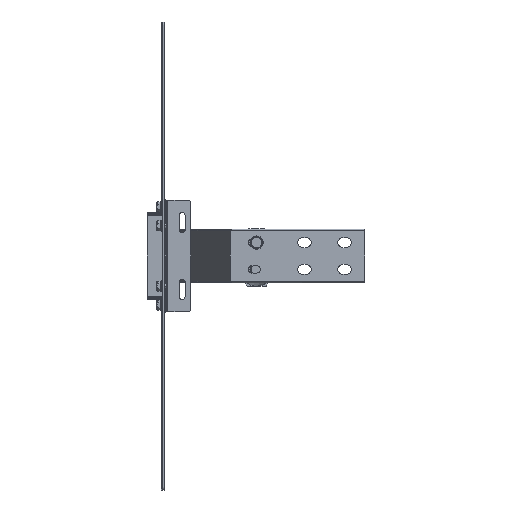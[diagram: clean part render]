
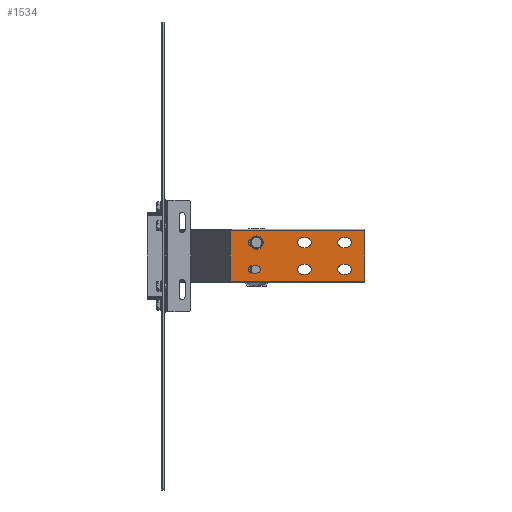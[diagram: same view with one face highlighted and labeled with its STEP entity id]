
A CAD part, front view. The second image highlights one B-rep face of the part: STEP entity #1534.
In plain terms, the highlighted planar face has unit normal (0, -1, 0).
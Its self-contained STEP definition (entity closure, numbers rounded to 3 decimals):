
#1290=AXIS2_PLACEMENT_3D('Circle Axis2P3D',#1288,#1289,$) ;
#1310=AXIS2_PLACEMENT_3D('Plane Axis2P3D',#1307,#1308,#1309) ;
#1348=AXIS2_PLACEMENT_3D('Circle Axis2P3D',#1346,#1347,$) ;
#1366=AXIS2_PLACEMENT_3D('Circle Axis2P3D',#1364,#1365,$) ;
#1382=AXIS2_PLACEMENT_3D('Circle Axis2P3D',#1380,#1381,$) ;
#1400=AXIS2_PLACEMENT_3D('Circle Axis2P3D',#1398,#1399,$) ;
#1416=AXIS2_PLACEMENT_3D('Circle Axis2P3D',#1414,#1415,$) ;
#1443=AXIS2_PLACEMENT_3D('Circle Axis2P3D',#1441,#1442,$) ;
#1457=AXIS2_PLACEMENT_3D('Circle Axis2P3D',#1455,#1456,$) ;
#1468=AXIS2_PLACEMENT_3D('Circle Axis2P3D',#1466,#1467,$) ;
#1484=AXIS2_PLACEMENT_3D('Circle Axis2P3D',#1482,#1483,$) ;
#1502=AXIS2_PLACEMENT_3D('Circle Axis2P3D',#1500,#1501,$) ;
#1518=AXIS2_PLACEMENT_3D('Circle Axis2P3D',#1516,#1517,$) ;
#1254=CARTESIAN_POINT('Vertex',(212.5,-216.9,27.5)) ;
#1257=CARTESIAN_POINT('Line Origine',(210.,-216.9,27.5)) ;
#1261=CARTESIAN_POINT('Vertex',(207.5,-216.9,27.5)) ;
#1288=CARTESIAN_POINT('Axis2P3D Location',(207.5,-216.9,20.)) ;
#1292=CARTESIAN_POINT('Vertex',(207.5,-216.9,12.5)) ;
#1307=CARTESIAN_POINT('Axis2P3D Location',(300.,-216.9,-38.1)) ;
#1312=CARTESIAN_POINT('Line Origine',(199.376,-216.9,-38.1)) ;
#1316=CARTESIAN_POINT('Vertex',(300.,-216.9,-38.1)) ;
#1318=CARTESIAN_POINT('Vertex',(98.751,-216.9,-38.1)) ;
#1321=CARTESIAN_POINT('Line Origine',(300.,-216.9,0.)) ;
#1325=CARTESIAN_POINT('Vertex',(300.,-216.9,38.1)) ;
#1328=CARTESIAN_POINT('Line Origine',(199.376,-216.9,38.1)) ;
#1332=CARTESIAN_POINT('Vertex',(98.751,-216.9,38.1)) ;
#1335=CARTESIAN_POINT('Line Origine',(98.751,-216.9,0.)) ;
#1346=CARTESIAN_POINT('Axis2P3D Location',(212.5,-216.9,20.)) ;
#1350=CARTESIAN_POINT('Vertex',(212.5,-216.9,12.5)) ;
#1353=CARTESIAN_POINT('Line Origine',(210.,-216.9,12.5)) ;
#1364=CARTESIAN_POINT('Axis2P3D Location',(272.5,-216.9,20.)) ;
#1368=CARTESIAN_POINT('Vertex',(272.5,-216.9,12.5)) ;
#1370=CARTESIAN_POINT('Vertex',(272.5,-216.9,27.5)) ;
#1373=CARTESIAN_POINT('Line Origine',(270.,-216.9,12.5)) ;
#1377=CARTESIAN_POINT('Vertex',(267.5,-216.9,12.5)) ;
#1380=CARTESIAN_POINT('Axis2P3D Location',(267.5,-216.9,20.)) ;
#1384=CARTESIAN_POINT('Vertex',(267.5,-216.9,27.5)) ;
#1387=CARTESIAN_POINT('Line Origine',(270.,-216.9,27.5)) ;
#1398=CARTESIAN_POINT('Axis2P3D Location',(207.5,-216.9,-20.)) ;
#1402=CARTESIAN_POINT('Vertex',(207.5,-216.9,-12.5)) ;
#1404=CARTESIAN_POINT('Vertex',(207.5,-216.9,-27.5)) ;
#1407=CARTESIAN_POINT('Line Origine',(210.,-216.9,-12.5)) ;
#1411=CARTESIAN_POINT('Vertex',(212.5,-216.9,-12.5)) ;
#1414=CARTESIAN_POINT('Axis2P3D Location',(212.5,-216.9,-20.)) ;
#1418=CARTESIAN_POINT('Vertex',(212.5,-216.9,-27.5)) ;
#1421=CARTESIAN_POINT('Line Origine',(210.,-216.9,-27.5)) ;
#1432=CARTESIAN_POINT('Line Origine',(270.,-216.9,-12.5)) ;
#1436=CARTESIAN_POINT('Vertex',(272.5,-216.9,-12.5)) ;
#1438=CARTESIAN_POINT('Vertex',(267.5,-216.9,-12.5)) ;
#1441=CARTESIAN_POINT('Axis2P3D Location',(272.5,-216.9,-20.)) ;
#1445=CARTESIAN_POINT('Vertex',(272.5,-216.9,-27.5)) ;
#1448=CARTESIAN_POINT('Line Origine',(270.,-216.9,-27.5)) ;
#1452=CARTESIAN_POINT('Vertex',(267.5,-216.9,-27.5)) ;
#1455=CARTESIAN_POINT('Axis2P3D Location',(267.5,-216.9,-20.)) ;
#1466=CARTESIAN_POINT('Axis2P3D Location',(138.5,-216.9,20.)) ;
#1470=CARTESIAN_POINT('Vertex',(138.5,-216.9,14.5)) ;
#1472=CARTESIAN_POINT('Vertex',(138.5,-216.9,25.5)) ;
#1475=CARTESIAN_POINT('Line Origine',(135.,-216.9,14.5)) ;
#1479=CARTESIAN_POINT('Vertex',(131.5,-216.9,14.5)) ;
#1482=CARTESIAN_POINT('Axis2P3D Location',(131.5,-216.9,20.)) ;
#1486=CARTESIAN_POINT('Vertex',(131.5,-216.9,25.5)) ;
#1489=CARTESIAN_POINT('Line Origine',(135.,-216.9,25.5)) ;
#1500=CARTESIAN_POINT('Axis2P3D Location',(131.5,-216.9,-20.)) ;
#1504=CARTESIAN_POINT('Vertex',(131.5,-216.9,-14.5)) ;
#1506=CARTESIAN_POINT('Vertex',(131.5,-216.9,-25.5)) ;
#1509=CARTESIAN_POINT('Line Origine',(135.,-216.9,-14.5)) ;
#1513=CARTESIAN_POINT('Vertex',(138.5,-216.9,-14.5)) ;
#1516=CARTESIAN_POINT('Axis2P3D Location',(138.5,-216.9,-20.)) ;
#1520=CARTESIAN_POINT('Vertex',(138.5,-216.9,-25.5)) ;
#1523=CARTESIAN_POINT('Line Origine',(135.,-216.9,-25.5)) ;
#1258=DIRECTION('Vector Direction',(1.,0.,0.)) ;
#1289=DIRECTION('Axis2P3D Direction',(0.,-1.,0.)) ;
#1308=DIRECTION('Axis2P3D Direction',(0.,-1.,0.)) ;
#1309=DIRECTION('Axis2P3D XDirection',(0.,0.,1.)) ;
#1313=DIRECTION('Vector Direction',(-1.,0.,0.)) ;
#1322=DIRECTION('Vector Direction',(0.,0.,1.)) ;
#1329=DIRECTION('Vector Direction',(-1.,0.,0.)) ;
#1336=DIRECTION('Vector Direction',(0.,0.,1.)) ;
#1347=DIRECTION('Axis2P3D Direction',(0.,-1.,0.)) ;
#1354=DIRECTION('Vector Direction',(-1.,0.,0.)) ;
#1365=DIRECTION('Axis2P3D Direction',(0.,-1.,0.)) ;
#1374=DIRECTION('Vector Direction',(1.,0.,0.)) ;
#1381=DIRECTION('Axis2P3D Direction',(0.,-1.,0.)) ;
#1388=DIRECTION('Vector Direction',(-1.,0.,0.)) ;
#1399=DIRECTION('Axis2P3D Direction',(0.,-1.,0.)) ;
#1408=DIRECTION('Vector Direction',(-1.,0.,0.)) ;
#1415=DIRECTION('Axis2P3D Direction',(0.,-1.,0.)) ;
#1422=DIRECTION('Vector Direction',(1.,0.,0.)) ;
#1433=DIRECTION('Vector Direction',(1.,0.,0.)) ;
#1442=DIRECTION('Axis2P3D Direction',(0.,-1.,0.)) ;
#1449=DIRECTION('Vector Direction',(-1.,0.,0.)) ;
#1456=DIRECTION('Axis2P3D Direction',(0.,-1.,0.)) ;
#1467=DIRECTION('Axis2P3D Direction',(0.,-1.,0.)) ;
#1476=DIRECTION('Vector Direction',(-1.,0.,0.)) ;
#1483=DIRECTION('Axis2P3D Direction',(0.,-1.,0.)) ;
#1490=DIRECTION('Vector Direction',(1.,0.,0.)) ;
#1501=DIRECTION('Axis2P3D Direction',(0.,-1.,0.)) ;
#1510=DIRECTION('Vector Direction',(-1.,0.,0.)) ;
#1517=DIRECTION('Axis2P3D Direction',(0.,-1.,0.)) ;
#1524=DIRECTION('Vector Direction',(1.,0.,0.)) ;
#1259=VECTOR('Line Direction',#1258,1.) ;
#1314=VECTOR('Line Direction',#1313,1.) ;
#1323=VECTOR('Line Direction',#1322,1.) ;
#1330=VECTOR('Line Direction',#1329,1.) ;
#1337=VECTOR('Line Direction',#1336,1.) ;
#1355=VECTOR('Line Direction',#1354,1.) ;
#1375=VECTOR('Line Direction',#1374,1.) ;
#1389=VECTOR('Line Direction',#1388,1.) ;
#1409=VECTOR('Line Direction',#1408,1.) ;
#1423=VECTOR('Line Direction',#1422,1.) ;
#1434=VECTOR('Line Direction',#1433,1.) ;
#1450=VECTOR('Line Direction',#1449,1.) ;
#1477=VECTOR('Line Direction',#1476,1.) ;
#1491=VECTOR('Line Direction',#1490,1.) ;
#1511=VECTOR('Line Direction',#1510,1.) ;
#1525=VECTOR('Line Direction',#1524,1.) ;
#1341=ORIENTED_EDGE('',*,*,#1320,.F.) ;
#1342=ORIENTED_EDGE('',*,*,#1327,.F.) ;
#1343=ORIENTED_EDGE('',*,*,#1334,.T.) ;
#1344=ORIENTED_EDGE('',*,*,#1339,.F.) ;
#1359=ORIENTED_EDGE('',*,*,#1352,.F.) ;
#1360=ORIENTED_EDGE('',*,*,#1357,.F.) ;
#1361=ORIENTED_EDGE('',*,*,#1294,.F.) ;
#1362=ORIENTED_EDGE('',*,*,#1263,.F.) ;
#1393=ORIENTED_EDGE('',*,*,#1372,.F.) ;
#1394=ORIENTED_EDGE('',*,*,#1379,.F.) ;
#1395=ORIENTED_EDGE('',*,*,#1386,.F.) ;
#1396=ORIENTED_EDGE('',*,*,#1391,.F.) ;
#1427=ORIENTED_EDGE('',*,*,#1406,.F.) ;
#1428=ORIENTED_EDGE('',*,*,#1413,.F.) ;
#1429=ORIENTED_EDGE('',*,*,#1420,.F.) ;
#1430=ORIENTED_EDGE('',*,*,#1425,.F.) ;
#1461=ORIENTED_EDGE('',*,*,#1440,.F.) ;
#1462=ORIENTED_EDGE('',*,*,#1447,.F.) ;
#1463=ORIENTED_EDGE('',*,*,#1454,.F.) ;
#1464=ORIENTED_EDGE('',*,*,#1459,.F.) ;
#1495=ORIENTED_EDGE('',*,*,#1474,.F.) ;
#1496=ORIENTED_EDGE('',*,*,#1481,.F.) ;
#1497=ORIENTED_EDGE('',*,*,#1488,.F.) ;
#1498=ORIENTED_EDGE('',*,*,#1493,.F.) ;
#1529=ORIENTED_EDGE('',*,*,#1508,.F.) ;
#1530=ORIENTED_EDGE('',*,*,#1515,.F.) ;
#1531=ORIENTED_EDGE('',*,*,#1522,.F.) ;
#1532=ORIENTED_EDGE('',*,*,#1527,.F.) ;
#1363=FACE_BOUND('',#1358,.T.) ;
#1397=FACE_BOUND('',#1392,.T.) ;
#1431=FACE_BOUND('',#1426,.T.) ;
#1465=FACE_BOUND('',#1460,.T.) ;
#1499=FACE_BOUND('',#1494,.T.) ;
#1533=FACE_BOUND('',#1528,.T.) ;
#1534=ADVANCED_FACE('N',(#1345,#1363,#1397,#1431,#1465,#1499,#1533),#1311,.T.) ;
#1291=CIRCLE('generated circle',#1290,7.5) ;
#1349=CIRCLE('generated circle',#1348,7.5) ;
#1367=CIRCLE('generated circle',#1366,7.5) ;
#1383=CIRCLE('generated circle',#1382,7.5) ;
#1401=CIRCLE('generated circle',#1400,7.5) ;
#1417=CIRCLE('generated circle',#1416,7.5) ;
#1444=CIRCLE('generated circle',#1443,7.5) ;
#1458=CIRCLE('generated circle',#1457,7.5) ;
#1469=CIRCLE('generated circle',#1468,5.5) ;
#1485=CIRCLE('generated circle',#1484,5.5) ;
#1503=CIRCLE('generated circle',#1502,5.5) ;
#1519=CIRCLE('generated circle',#1518,5.5) ;
#1263=EDGE_CURVE('',#1255,#1262,#1260,.F.) ;
#1294=EDGE_CURVE('',#1262,#1293,#1291,.T.) ;
#1320=EDGE_CURVE('',#1317,#1319,#1315,.T.) ;
#1327=EDGE_CURVE('',#1326,#1317,#1324,.F.) ;
#1334=EDGE_CURVE('',#1326,#1333,#1331,.T.) ;
#1339=EDGE_CURVE('',#1319,#1333,#1338,.T.) ;
#1352=EDGE_CURVE('',#1351,#1255,#1349,.T.) ;
#1357=EDGE_CURVE('',#1293,#1351,#1356,.F.) ;
#1372=EDGE_CURVE('',#1369,#1371,#1367,.T.) ;
#1379=EDGE_CURVE('',#1378,#1369,#1376,.T.) ;
#1386=EDGE_CURVE('',#1385,#1378,#1383,.T.) ;
#1391=EDGE_CURVE('',#1371,#1385,#1390,.T.) ;
#1406=EDGE_CURVE('',#1403,#1405,#1401,.T.) ;
#1413=EDGE_CURVE('',#1412,#1403,#1410,.T.) ;
#1420=EDGE_CURVE('',#1419,#1412,#1417,.T.) ;
#1425=EDGE_CURVE('',#1405,#1419,#1424,.T.) ;
#1440=EDGE_CURVE('',#1437,#1439,#1435,.F.) ;
#1447=EDGE_CURVE('',#1446,#1437,#1444,.T.) ;
#1454=EDGE_CURVE('',#1453,#1446,#1451,.F.) ;
#1459=EDGE_CURVE('',#1439,#1453,#1458,.T.) ;
#1474=EDGE_CURVE('',#1471,#1473,#1469,.T.) ;
#1481=EDGE_CURVE('',#1480,#1471,#1478,.F.) ;
#1488=EDGE_CURVE('',#1487,#1480,#1485,.T.) ;
#1493=EDGE_CURVE('',#1473,#1487,#1492,.F.) ;
#1508=EDGE_CURVE('',#1505,#1507,#1503,.T.) ;
#1515=EDGE_CURVE('',#1514,#1505,#1512,.T.) ;
#1522=EDGE_CURVE('',#1521,#1514,#1519,.T.) ;
#1527=EDGE_CURVE('',#1507,#1521,#1526,.T.) ;
#1340=EDGE_LOOP('',(#1341,#1342,#1343,#1344)) ;
#1358=EDGE_LOOP('',(#1359,#1360,#1361,#1362)) ;
#1392=EDGE_LOOP('',(#1393,#1394,#1395,#1396)) ;
#1426=EDGE_LOOP('',(#1427,#1428,#1429,#1430)) ;
#1460=EDGE_LOOP('',(#1461,#1462,#1463,#1464)) ;
#1494=EDGE_LOOP('',(#1495,#1496,#1497,#1498)) ;
#1528=EDGE_LOOP('',(#1529,#1530,#1531,#1532)) ;
#1345=FACE_OUTER_BOUND('',#1340,.T.) ;
#1260=LINE('Line',#1257,#1259) ;
#1315=LINE('Line',#1312,#1314) ;
#1324=LINE('Line',#1321,#1323) ;
#1331=LINE('Line',#1328,#1330) ;
#1338=LINE('Line',#1335,#1337) ;
#1356=LINE('Line',#1353,#1355) ;
#1376=LINE('Line',#1373,#1375) ;
#1390=LINE('Line',#1387,#1389) ;
#1410=LINE('Line',#1407,#1409) ;
#1424=LINE('Line',#1421,#1423) ;
#1435=LINE('Line',#1432,#1434) ;
#1451=LINE('Line',#1448,#1450) ;
#1478=LINE('Line',#1475,#1477) ;
#1492=LINE('Line',#1489,#1491) ;
#1512=LINE('Line',#1509,#1511) ;
#1526=LINE('Line',#1523,#1525) ;
#1311=PLANE('',#1310) ;
#1255=VERTEX_POINT('',#1254) ;
#1262=VERTEX_POINT('',#1261) ;
#1293=VERTEX_POINT('',#1292) ;
#1317=VERTEX_POINT('',#1316) ;
#1319=VERTEX_POINT('',#1318) ;
#1326=VERTEX_POINT('',#1325) ;
#1333=VERTEX_POINT('',#1332) ;
#1351=VERTEX_POINT('',#1350) ;
#1369=VERTEX_POINT('',#1368) ;
#1371=VERTEX_POINT('',#1370) ;
#1378=VERTEX_POINT('',#1377) ;
#1385=VERTEX_POINT('',#1384) ;
#1403=VERTEX_POINT('',#1402) ;
#1405=VERTEX_POINT('',#1404) ;
#1412=VERTEX_POINT('',#1411) ;
#1419=VERTEX_POINT('',#1418) ;
#1437=VERTEX_POINT('',#1436) ;
#1439=VERTEX_POINT('',#1438) ;
#1446=VERTEX_POINT('',#1445) ;
#1453=VERTEX_POINT('',#1452) ;
#1471=VERTEX_POINT('',#1470) ;
#1473=VERTEX_POINT('',#1472) ;
#1480=VERTEX_POINT('',#1479) ;
#1487=VERTEX_POINT('',#1486) ;
#1505=VERTEX_POINT('',#1504) ;
#1507=VERTEX_POINT('',#1506) ;
#1514=VERTEX_POINT('',#1513) ;
#1521=VERTEX_POINT('',#1520) ;
